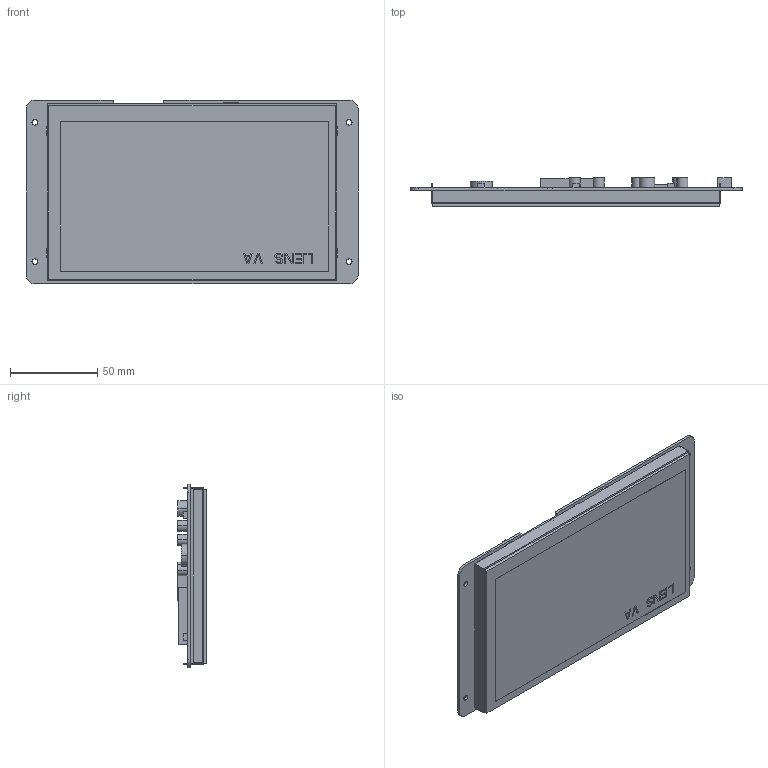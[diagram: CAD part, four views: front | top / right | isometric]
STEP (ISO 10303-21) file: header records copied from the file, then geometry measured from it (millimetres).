
FILE_DESCRIPTION((''),'2;1');
FILE_NAME('DMG80480T070-09WTR_ASM','2021-10-31T',('Administrator'),(''),'PRO/ENGINEER BY PARAMETRIC TECHNOLOGY CORPORATION, 2014320','PRO/ENGINEER BY PARAMETRIC TECHNOLOGY CORPORATION, 2014320','');
FILE_SCHEMA(('CONFIG_CONTROL_DESIGN'));
Length unit declared in the file: millimetre
Products named in the file (5): TK070011; LN80480T070IA9004; TPC070T0071G01V1; PCB; DMG80480T070-09WTR_ASM
Assembly tree (4 placements, depth 2):
  DMG80480T070-09WTR_ASM
    TK070011
    LN80480T070IA9004
    TPC070T0071G01V1
    PCB
Bounding box: 190.5 x 16.57 x 105.41 mm (x, y, z)
Volume: 160520.7 mm3; surface area: 126380.6 mm2
Topology: 4 solids, 4 shells, 317 faces, 867 edges, 578 vertices
Faces by surface type: plane 281, cylinder 36
Entity records: 10090 total; most frequent: CARTESIAN_POINT 1771, ORIENTED_EDGE 1734, DIRECTION 1591, EDGE_CURVE 867, VECTOR 795, LINE 795, VERTEX_POINT 578, AXIS2_PLACEMENT_3D 398
